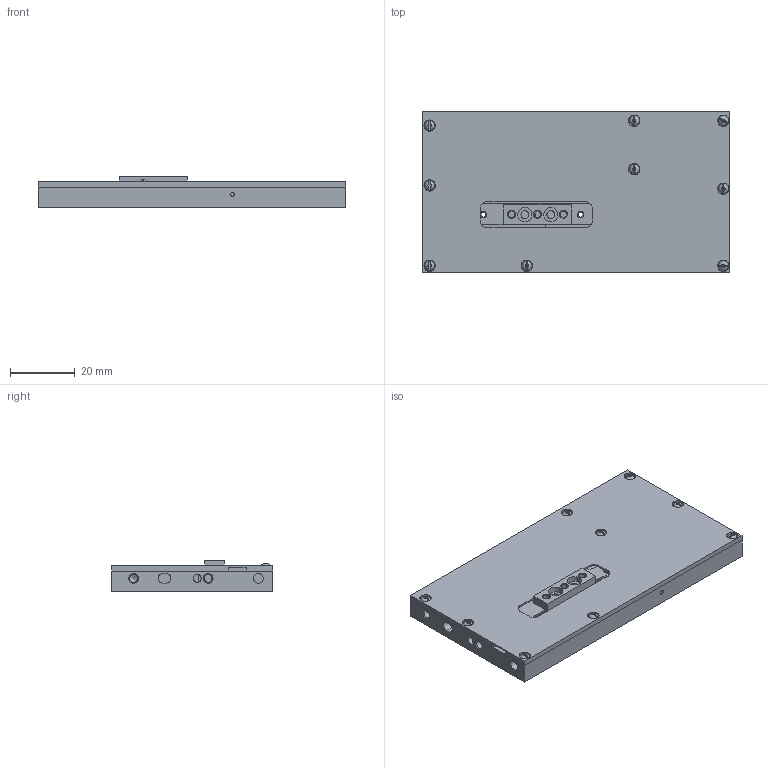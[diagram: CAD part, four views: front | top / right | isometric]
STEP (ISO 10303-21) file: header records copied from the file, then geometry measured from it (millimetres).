
FILE_DESCRIPTION((''),'2;1');
FILE_NAME('C:\Users\karl\Favorites\Desktop\Sent Stuff\JMREYNOSO\LCS8-010-15-2.stp','2014-10-23T08:37:51',('Karl2'),(''),'Autodesk Inventor 2008','Autodesk Inventor 2008','');
FILE_SCHEMA(('AUTOMOTIVE_DESIGN { 1 0 10303 214 1 1 1 1 }'));
Length unit declared in the file: millimetre
Products named in the file (7): LCS8-010--15-2; LCS8-010-6_A; 900822-20_A; 11619-10_A; LCS8-SLIDE; 23632-10-CS_A; CNS 9671 M1.6 x 4
Assembly tree (14 placements, depth 4):
  LCS8-010--15-2
    LCS8-010-6_A
      900822-20_A
        11619-10_A
      LCS8-SLIDE
      23632-10-CS_A
    CNS 9671 M1.6 x 4  x9
Bounding box: 95 x 50 x 9.5 mm (x, y, z)
Volume: 14309.9 mm3; surface area: 24265.4 mm2
Topology: 12 solids, 12 shells, 389 faces, 980 edges, 633 vertices
Faces by surface type: plane 185, cylinder 119, cone 58, sphere 18, bspline 9
Full cylindrical faces by diameter (mm): 1.221 x11, 1.385 x9, 1.567 x3, 1.6 x9, 1.8 x9, 2.013 x5, 2.4 x2, 2.459 x4, 2.5 x1, 3 x2, 3.5 x9, 4.4 x2
Entity records: 8908 total; most frequent: CARTESIAN_POINT 1747, DIRECTION 1491, ORIENTED_EDGE 1304, EDGE_CURVE 652, AXIS2_PLACEMENT_3D 547, VERTEX_POINT 472, EDGE_LOOP 438, VECTOR 397
